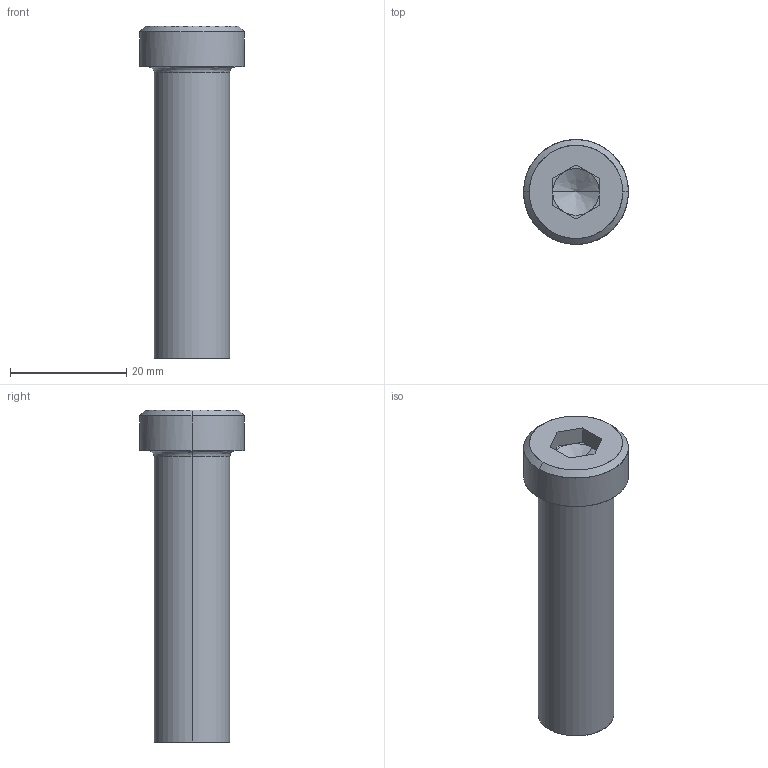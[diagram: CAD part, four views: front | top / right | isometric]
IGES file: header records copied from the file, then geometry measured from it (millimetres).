
Global section: file name: E:\UnigraphicsGraphicData\MISUMI_PRESS-PARTS\IGES\3d_sbtkn13-50_05169_r00.igs; native system: NX V5.0; preprocessor: UGS NX IGES V5.0; author: MISUMI; date: 20110105.162503; units: millimetre
Bounding box: 18 x 18 x 57 mm (x, y, z)
Surface area: 3463 mm2 (no closed solid volume)
Topology: 0 solids, 0 shells, 32 faces, 178 edges, 174 vertices
Faces by surface type: bspline 32
